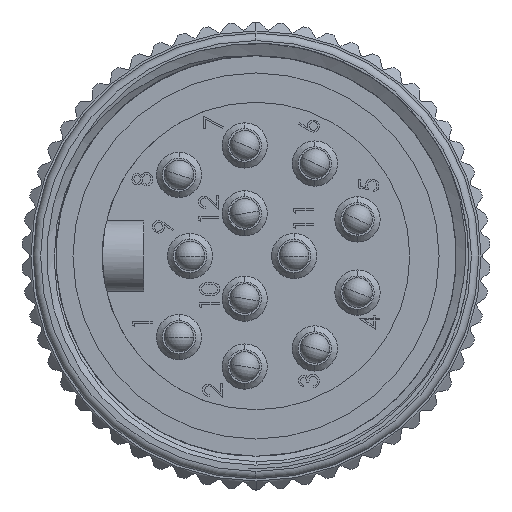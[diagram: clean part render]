
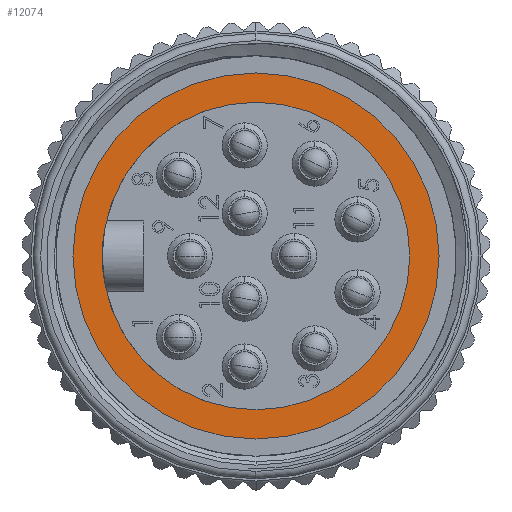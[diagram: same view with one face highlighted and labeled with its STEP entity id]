
A CAD part, left-side view. The second image highlights one B-rep face of the part: STEP entity #12074.
In plain terms, the highlighted planar face has unit normal (-1, 0, 0).
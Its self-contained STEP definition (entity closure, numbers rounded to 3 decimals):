
#28 = VERTEX_POINT ( 'NONE', #26409 ) ;
#787 = CIRCLE ( 'NONE', #27759, 10.35 ) ;
#1988 = DIRECTION ( 'NONE',  ( -1., 0., 0. ) ) ;
#3784 = DIRECTION ( 'NONE',  ( 1., 0., 0. ) ) ;
#3890 = AXIS2_PLACEMENT_3D ( 'NONE', #39251, #19218, #42594 ) ;
#4851 = CARTESIAN_POINT ( 'NONE',  ( 0., 0., 0. ) ) ;
#4866 = EDGE_CURVE ( 'NONE', #28, #22411, #787, .T. ) ;
#5839 = EDGE_CURVE ( 'NONE', #17121, #27701, #23204, .T. ) ;
#6403 = DIRECTION ( 'NONE',  ( -1., 0., 0. ) ) ;
#6966 = CIRCLE ( 'NONE', #22211, 10.35 ) ;
#8219 = DIRECTION ( 'NONE',  ( 0., 0., 1. ) ) ;
#9204 = ORIENTED_EDGE ( 'NONE', *, *, #5839, .T. ) ;
#9240 = FACE_BOUND ( 'NONE', #9453, .T. ) ;
#9273 = CARTESIAN_POINT ( 'NONE',  ( 0., 0., 12.319 ) ) ;
#9453 = EDGE_LOOP ( 'NONE', ( #26144, #33383 ) ) ;
#10354 = PLANE ( 'NONE',  #27452 ) ;
#11865 = CARTESIAN_POINT ( 'NONE',  ( 0., 0., -10.35 ) ) ;
#12074 = ADVANCED_FACE ( 'NONE', ( #9240, #38541 ), #10354, .F. ) ;
#17057 = AXIS2_PLACEMENT_3D ( 'NONE', #22114, #1988, #25490 ) ;
#17121 = VERTEX_POINT ( 'NONE', #9273 ) ;
#19218 = DIRECTION ( 'NONE',  ( -1., 0., 0. ) ) ;
#21202 = EDGE_LOOP ( 'NONE', ( #9204, #32629 ) ) ;
#22114 = CARTESIAN_POINT ( 'NONE',  ( 0., 0., 0. ) ) ;
#22211 = AXIS2_PLACEMENT_3D ( 'NONE', #26522, #6403, #29902 ) ;
#22411 = VERTEX_POINT ( 'NONE', #11865 ) ;
#23204 = CIRCLE ( 'NONE', #3890, 12.319 ) ;
#23889 = CARTESIAN_POINT ( 'NONE',  ( 0., 10.35, 0. ) ) ;
#24494 = CARTESIAN_POINT ( 'NONE',  ( 0., 0., -12.319 ) ) ;
#25490 = DIRECTION ( 'NONE',  ( 0., 0., 1. ) ) ;
#26144 = ORIENTED_EDGE ( 'NONE', *, *, #4866, .F. ) ;
#26409 = CARTESIAN_POINT ( 'NONE',  ( 0., 0., 10.35 ) ) ;
#26522 = CARTESIAN_POINT ( 'NONE',  ( 0., 0., 0. ) ) ;
#27262 = DIRECTION ( 'NONE',  ( 0., 0., -1. ) ) ;
#27452 = AXIS2_PLACEMENT_3D ( 'NONE', #23889, #3784, #27262 ) ;
#27701 = VERTEX_POINT ( 'NONE', #24494 ) ;
#27759 = AXIS2_PLACEMENT_3D ( 'NONE', #4851, #28349, #8219 ) ;
#28349 = DIRECTION ( 'NONE',  ( -1., 0., 0. ) ) ;
#29902 = DIRECTION ( 'NONE',  ( 0., 0., 1. ) ) ;
#32629 = ORIENTED_EDGE ( 'NONE', *, *, #38105, .T. ) ;
#33383 = ORIENTED_EDGE ( 'NONE', *, *, #39750, .F. ) ;
#38105 = EDGE_CURVE ( 'NONE', #27701, #17121, #41671, .T. ) ;
#38541 = FACE_OUTER_BOUND ( 'NONE', #21202, .T. ) ;
#39251 = CARTESIAN_POINT ( 'NONE',  ( 0., 0., 0. ) ) ;
#39750 = EDGE_CURVE ( 'NONE', #22411, #28, #6966, .T. ) ;
#41671 = CIRCLE ( 'NONE', #17057, 12.319 ) ;
#42594 = DIRECTION ( 'NONE',  ( 0., 0., 1. ) ) ;
